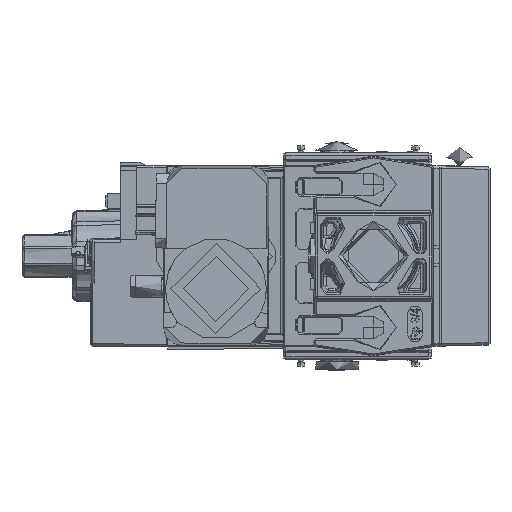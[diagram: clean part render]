
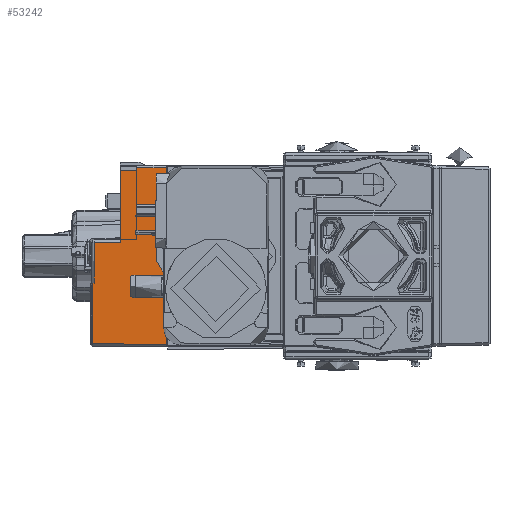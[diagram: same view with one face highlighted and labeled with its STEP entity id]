
A CAD part, left-side view. The second image highlights one B-rep face of the part: STEP entity #53242.
In plain terms, the highlighted planar face has unit normal (1, -0.009, 0).
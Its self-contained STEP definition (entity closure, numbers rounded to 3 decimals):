
#1452 = CARTESIAN_POINT ( 'NONE',  ( -39.394, 47.973, 34.799 ) ) ;
#1889 = DIRECTION ( 'NONE',  ( 0.009, 1., -0.009 ) ) ;
#4726 = LINE ( 'NONE', #95574, #38938 ) ;
#7628 = LINE ( 'NONE', #24283, #133461 ) ;
#8020 = EDGE_CURVE ( 'NONE', #35128, #67499, #79317, .T. ) ;
#8167 = ORIENTED_EDGE ( 'NONE', *, *, #52259, .F. ) ;
#11845 = CARTESIAN_POINT ( 'NONE',  ( -39.238, 65.779, -35.239 ) ) ;
#12718 = DIRECTION ( 'NONE',  ( 0., 0., -1. ) ) ;
#13823 = PLANE ( 'NONE',  #61590 ) ;
#16217 = LINE ( 'NONE', #20270, #73806 ) ;
#16402 = VERTEX_POINT ( 'NONE', #125628 ) ;
#19898 = ORIENTED_EDGE ( 'NONE', *, *, #35585, .F. ) ;
#20270 = CARTESIAN_POINT ( 'NONE',  ( -39.337, 54.473, -39.049 ) ) ;
#24283 = CARTESIAN_POINT ( 'NONE',  ( -39.245, 64.982, -39.049 ) ) ;
#25408 = DIRECTION ( 'NONE',  ( -0.009, -1., 0. ) ) ;
#26343 = DIRECTION ( 'NONE',  ( 0., 0., 1. ) ) ;
#26738 = DIRECTION ( 'NONE',  ( -0.009, -1., 0.009 ) ) ;
#31853 = DIRECTION ( 'NONE',  ( 0., 0., -1. ) ) ;
#33448 = CARTESIAN_POINT ( 'NONE',  ( -39.499, 35.973, 35.501 ) ) ;
#35128 = VERTEX_POINT ( 'NONE', #66268 ) ;
#35334 = CARTESIAN_POINT ( 'NONE',  ( -39.245, 64.982, -10.891 ) ) ;
#35585 = EDGE_CURVE ( 'NONE', #56848, #35128, #106493, .T. ) ;
#36158 = CARTESIAN_POINT ( 'NONE',  ( -39.337, 54.473, 5.601 ) ) ;
#36598 = CARTESIAN_POINT ( 'NONE',  ( -39.238, 65.779, -35.239 ) ) ;
#38938 = VECTOR ( 'NONE', #26738, 1000. ) ;
#44868 = ORIENTED_EDGE ( 'NONE', *, *, #86179, .F. ) ;
#47621 = LINE ( 'NONE', #76320, #78180 ) ;
#48643 = DIRECTION ( 'NONE',  ( -0.009, -1., -0.009 ) ) ;
#48974 = VECTOR ( 'NONE', #56599, 1000. ) ;
#49630 = CARTESIAN_POINT ( 'NONE',  ( -39.394, 47.973, 34.501 ) ) ;
#50973 = ORIENTED_EDGE ( 'NONE', *, *, #110468, .F. ) ;
#52259 = EDGE_CURVE ( 'NONE', #63799, #116636, #97549, .T. ) ;
#52987 = CARTESIAN_POINT ( 'NONE',  ( -39.499, 35.973, -35.499 ) ) ;
#53242 = ADVANCED_FACE ( 'NONE', ( #144069 ), #13823, .F. ) ;
#53567 = VECTOR ( 'NONE', #48643, 1000. ) ;
#54530 = ORIENTED_EDGE ( 'NONE', *, *, #89459, .F. ) ;
#56599 = DIRECTION ( 'NONE',  ( 0.009, 1., -0.009 ) ) ;
#56848 = VERTEX_POINT ( 'NONE', #82008 ) ;
#58362 = CARTESIAN_POINT ( 'NONE',  ( -39.245, 64.982, 5.509 ) ) ;
#59587 = CARTESIAN_POINT ( 'NONE',  ( -39.512, 34.483, -39.049 ) ) ;
#61590 = AXIS2_PLACEMENT_3D ( 'NONE', #59587, #94246, #25408 ) ;
#62080 = VECTOR ( 'NONE', #62668, 1000. ) ;
#62668 = DIRECTION ( 'NONE',  ( 0.009, 1., 0. ) ) ;
#63799 = VERTEX_POINT ( 'NONE', #84374 ) ;
#65125 = EDGE_CURVE ( 'NONE', #114398, #81563, #145226, .T. ) ;
#65973 = ORIENTED_EDGE ( 'NONE', *, *, #114823, .T. ) ;
#66268 = CARTESIAN_POINT ( 'NONE',  ( -39.394, 47.973, 35.396 ) ) ;
#67499 = VERTEX_POINT ( 'NONE', #49630 ) ;
#68400 = VERTEX_POINT ( 'NONE', #35334 ) ;
#68932 = ORIENTED_EDGE ( 'NONE', *, *, #65125, .F. ) ;
#70403 = CARTESIAN_POINT ( 'NONE',  ( -39.394, 47.973, 35.098 ) ) ;
#73806 = VECTOR ( 'NONE', #31853, 1000. ) ;
#75708 = EDGE_CURVE ( 'NONE', #116636, #68400, #7628, .T. ) ;
#76320 = CARTESIAN_POINT ( 'NONE',  ( -39.238, 65.779, -39.049 ) ) ;
#78180 = VECTOR ( 'NONE', #110975, 1000. ) ;
#79317 = B_SPLINE_CURVE_WITH_KNOTS ( 'NONE', 3,
 ( #104547, #70403, #1452, #81954 ),
 .UNSPECIFIED., .F., .F.,
 ( 4, 4 ),
 ( 0., 1. ),
 .UNSPECIFIED. ) ;
#81563 = VERTEX_POINT ( 'NONE', #52987 ) ;
#81954 = CARTESIAN_POINT ( 'NONE',  ( -39.394, 47.973, 34.501 ) ) ;
#82008 = CARTESIAN_POINT ( 'NONE',  ( -39.499, 35.973, 35.501 ) ) ;
#84374 = CARTESIAN_POINT ( 'NONE',  ( -39.337, 54.473, 5.601 ) ) ;
#84796 = CARTESIAN_POINT ( 'NONE',  ( -39.238, 65.779, -10.898 ) ) ;
#86179 = EDGE_CURVE ( 'NONE', #67499, #16402, #96243, .T. ) ;
#89459 = EDGE_CURVE ( 'NONE', #16402, #63799, #16217, .T. ) ;
#90295 = VECTOR ( 'NONE', #1889, 1000. ) ;
#94246 = DIRECTION ( 'NONE',  ( -1., 0.009, 0. ) ) ;
#95185 = CARTESIAN_POINT ( 'NONE',  ( -39.499, 35.973, 40.151 ) ) ;
#95349 = ORIENTED_EDGE ( 'NONE', *, *, #75708, .F. ) ;
#95574 = CARTESIAN_POINT ( 'NONE',  ( -39.238, 65.779, -10.898 ) ) ;
#96243 = LINE ( 'NONE', #142984, #62080 ) ;
#97549 = LINE ( 'NONE', #36158, #90295 ) ;
#104547 = CARTESIAN_POINT ( 'NONE',  ( -39.394, 47.973, 35.396 ) ) ;
#106493 = LINE ( 'NONE', #33448, #48974 ) ;
#110468 = EDGE_CURVE ( 'NONE', #130541, #114398, #47621, .T. ) ;
#110975 = DIRECTION ( 'NONE',  ( 0., 0., -1. ) ) ;
#113332 = EDGE_LOOP ( 'NONE', ( #8167, #54530, #44868, #136207, #19898, #116006, #68932, #50973, #65973, #95349 ) ) ;
#114398 = VERTEX_POINT ( 'NONE', #11845 ) ;
#114823 = EDGE_CURVE ( 'NONE', #130541, #68400, #4726, .T. ) ;
#116006 = ORIENTED_EDGE ( 'NONE', *, *, #123640, .F. ) ;
#116636 = VERTEX_POINT ( 'NONE', #58362 ) ;
#120247 = VECTOR ( 'NONE', #26343, 1000. ) ;
#123640 = EDGE_CURVE ( 'NONE', #81563, #56848, #147198, .T. ) ;
#125628 = CARTESIAN_POINT ( 'NONE',  ( -39.337, 54.473, 34.501 ) ) ;
#130541 = VERTEX_POINT ( 'NONE', #84796 ) ;
#133461 = VECTOR ( 'NONE', #12718, 1000. ) ;
#136207 = ORIENTED_EDGE ( 'NONE', *, *, #8020, .F. ) ;
#142984 = CARTESIAN_POINT ( 'NONE',  ( -39.512, 34.483, 34.501 ) ) ;
#144069 = FACE_OUTER_BOUND ( 'NONE', #113332, .T. ) ;
#145226 = LINE ( 'NONE', #36598, #53567 ) ;
#147198 = LINE ( 'NONE', #95185, #120247 ) ;
